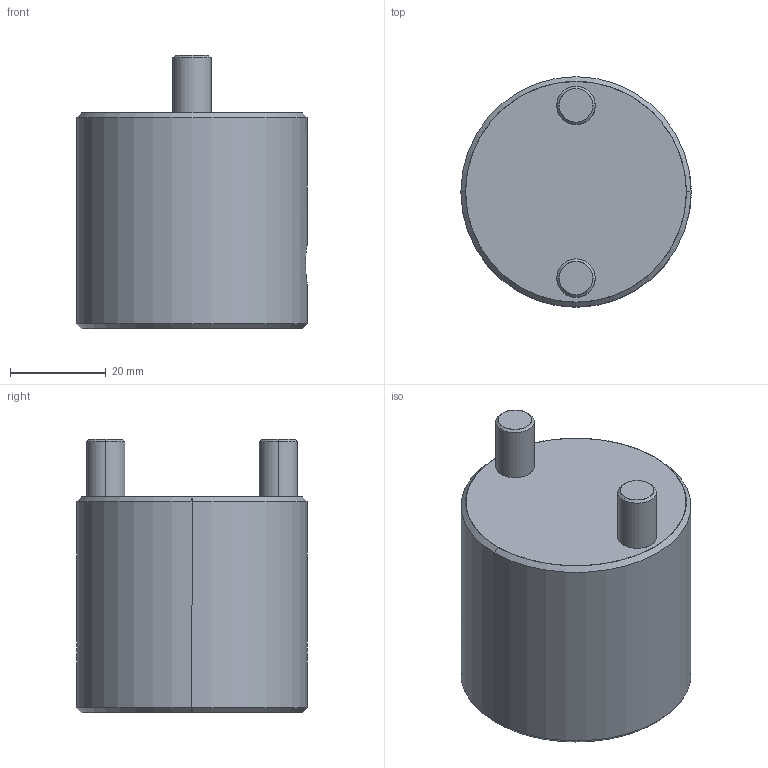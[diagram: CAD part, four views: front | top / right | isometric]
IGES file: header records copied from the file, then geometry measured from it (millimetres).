
Start section: SolidWorks IGES file using analytic representation for surfaces
Global section: file name: D:\Current\W1\Data\CS0725\CS0725.IGS; native system: SolidWorks 2017; preprocessor: SolidWorks 2017; author: Ravi Kalvai; date: 231208.140155; units: millimetre
Bounding box: 48 x 48 x 57 mm (x, y, z)
Surface area: 14025 mm2 (no closed solid volume)
Topology: 0 solids, 0 shells, 23 faces, 546 edges, 546 vertices
Faces by surface type: revolution 18, bspline 5
